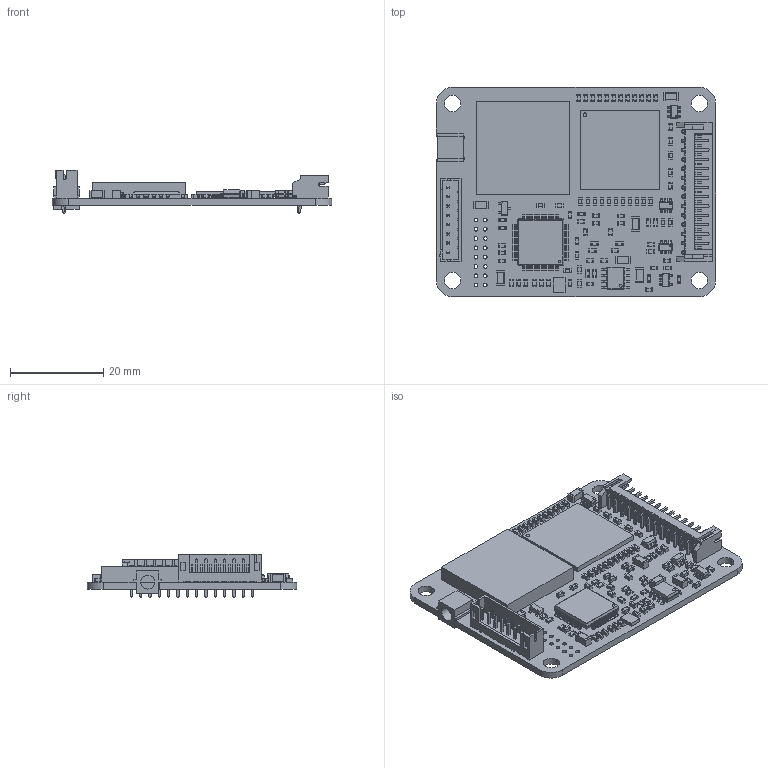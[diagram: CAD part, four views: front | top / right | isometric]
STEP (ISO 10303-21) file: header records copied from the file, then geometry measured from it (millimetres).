
FILE_DESCRIPTION(('KiCad electronic assembly'),'2;1');
FILE_NAME('pNAV2.step','2026-06-16T10:57:48',('Pcbnew'),('Kicad'), 'Open CASCADE STEP processor 7.9','KiCad to STEP converter','Unknown' );
FILE_SCHEMA(('AUTOMOTIVE_DESIGN { 1 0 10303 214 1 1 1 1 }'));
Length unit declared in the file: millimetre
Products named in the file (19): pNAV2 1; L_0603_1608Metric; C_0603_1608Metric; SOT-23; C_1206_3216Metric; JST_PH_S14B-PH-K_1x14_P2.00mm_Horizontal; SOIC-8_3.9x4.9mm_P1.27mm; R_0603_1608Metric; Filter_1411-5_1.4x1.1mm; mcx60612202111309-BodyPad; JST_PH_B8B-PH-K_1x08_P2.00mm_Vertical; LQFP-64_10x10mm_P0.5mm; SOT-23-5; SOT-23-6; Shield20x20x3-BodyPad; stepECS-120-8-33AQ-JVY-TR3-BodyPad; BGA-256_17.0x17.0mm_Layout16x16_P1.0mm_Ball0.5mm_Pad0.4mm_NSMD; QFN-28-1EP_5x5mm_P0.5mm_EP3.35x3.35mm; pNAV2_hw2_1_PCB
Assembly tree (136 placements, depth 2):
  pNAV2 1
    L_0603_1608Metric  x20
    C_0603_1608Metric  x73
    SOT-23  x2
    C_1206_3216Metric  x6
    JST_PH_S14B-PH-K_1x14_P2.00mm_Horizontal
    SOIC-8_3.9x4.9mm_P1.27mm
    R_0603_1608Metric  x19
    Filter_1411-5_1.4x1.1mm
    mcx60612202111309-BodyPad
    JST_PH_B8B-PH-K_1x08_P2.00mm_Vertical
    LQFP-64_10x10mm_P0.5mm
    SOT-23-5  x2
    SOT-23-6  x3
    Shield20x20x3-BodyPad
    stepECS-120-8-33AQ-JVY-TR3-BodyPad
    BGA-256_17.0x17.0mm_Layout16x16_P1.0mm_Ball0.5mm_Pad0.4mm_NSMD
    QFN-28-1EP_5x5mm_P0.5mm_EP3.35x3.35mm
    pNAV2_hw2_1_PCB
Bounding box: 60 x 45 x 9.4 mm (x, y, z)
Volume: 6629.8 mm3; surface area: 10913.7 mm2
Topology: 136 solids, 136 shells, 6254 faces, 16419 edges, 10688 vertices
Faces by surface type: plane 4144, cylinder 1894, bspline 152, sphere 64
Full cylindrical faces by diameter (mm): 0.2 x9, 0.5 x1, 0.75 x22, 0.8 x17, 3 x1, 3.5 x4
Entity records: 104977 total; most frequent: CARTESIAN_POINT 15240, ORIENTED_EDGE 14307, DIRECTION 13652, EDGE_CURVE 7154, LINE 5852, VECTOR 5852, VERTEX_POINT 4616, AXIS2_PLACEMENT_3D 3900
